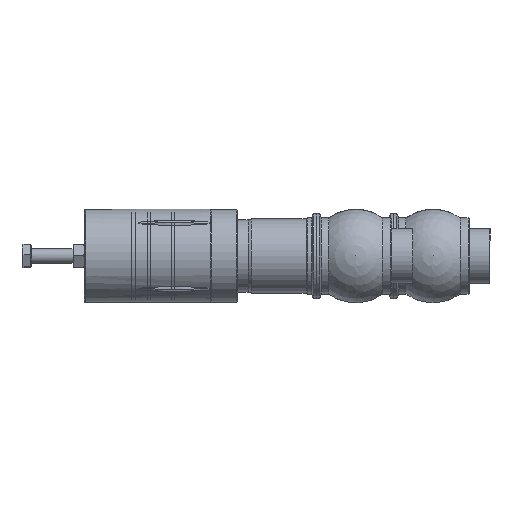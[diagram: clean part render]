
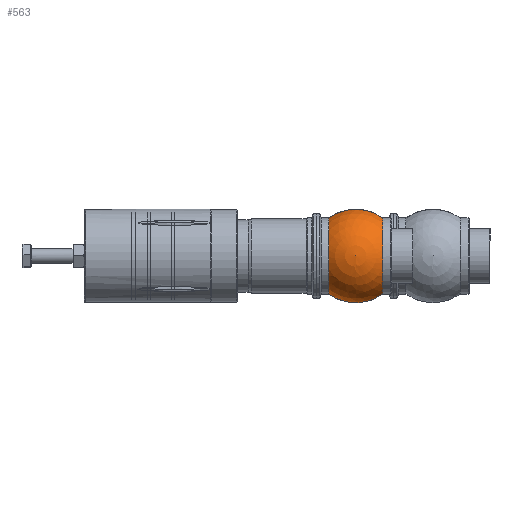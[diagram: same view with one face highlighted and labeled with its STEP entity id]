
A CAD part, left-side view. The second image highlights one B-rep face of the part: STEP entity #563.
In plain terms, the highlighted spherical face has radius 44.75 mm.
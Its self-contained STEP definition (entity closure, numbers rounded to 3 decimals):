
#377=CARTESIAN_POINT('',(2.385,28.61,36.422));
#378=VERTEX_POINT('',#377);
#379=CARTESIAN_POINT('',(-2.385,28.61,36.422));
#380=VERTEX_POINT('',#379);
#390=CARTESIAN_POINT('',(2.385,80.39,36.422));
#391=VERTEX_POINT('',#390);
#392=CARTESIAN_POINT('',(0.0,54.5,36.422));
#393=DIRECTION('',(0.0,0.0,-1.0));
#394=DIRECTION('',(-1.0,0.0,0.0));
#395=AXIS2_PLACEMENT_3D('',#392,#393,#394);
#396=CIRCLE('',#395,26.0);
#397=EDGE_CURVE('',#391,#378,#396,.T.);
#399=CARTESIAN_POINT('',(-2.385,80.39,36.422));
#400=VERTEX_POINT('',#399);
#410=CARTESIAN_POINT('',(0.0,54.5,36.422));
#411=DIRECTION('',(0.0,0.0,-1.0));
#412=DIRECTION('',(-1.0,0.0,0.0));
#413=AXIS2_PLACEMENT_3D('',#410,#411,#412);
#414=CIRCLE('',#413,26.0);
#415=EDGE_CURVE('',#380,#400,#414,.T.);
#435=CARTESIAN_POINT('',(0.0,80.39,0.0));
#436=DIRECTION('',(0.0,1.0,0.0));
#437=DIRECTION('',(1.0,0.0,0.0));
#438=AXIS2_PLACEMENT_3D('',#435,#436,#437);
#439=CIRCLE('',#438,36.5);
#440=EDGE_CURVE('',#391,#400,#439,.T.);
#539=CARTESIAN_POINT('',(0.0,28.61,0.0));
#540=DIRECTION('',(0.0,1.0,0.0));
#541=DIRECTION('',(1.0,0.0,0.0));
#542=AXIS2_PLACEMENT_3D('',#539,#540,#541);
#543=CIRCLE('',#542,36.5);
#544=EDGE_CURVE('',#378,#380,#543,.T.);
#552=CARTESIAN_POINT('',(0.0,54.5,0.0));
#553=DIRECTION('',(0.0,0.0,1.0));
#554=DIRECTION('',(1.0,0.0,0.0));
#555=AXIS2_PLACEMENT_3D('',#552,#553,#554);
#556=SPHERICAL_SURFACE('',#555,44.75);
#557=ORIENTED_EDGE('',*,*,#415,.T.);
#558=ORIENTED_EDGE('',*,*,#440,.F.);
#559=ORIENTED_EDGE('',*,*,#397,.T.);
#560=ORIENTED_EDGE('',*,*,#544,.T.);
#561=EDGE_LOOP('',(#557,#558,#559,#560));
#562=FACE_OUTER_BOUND('',#561,.T.);
#563=ADVANCED_FACE('',(#562),#556,.T.);
